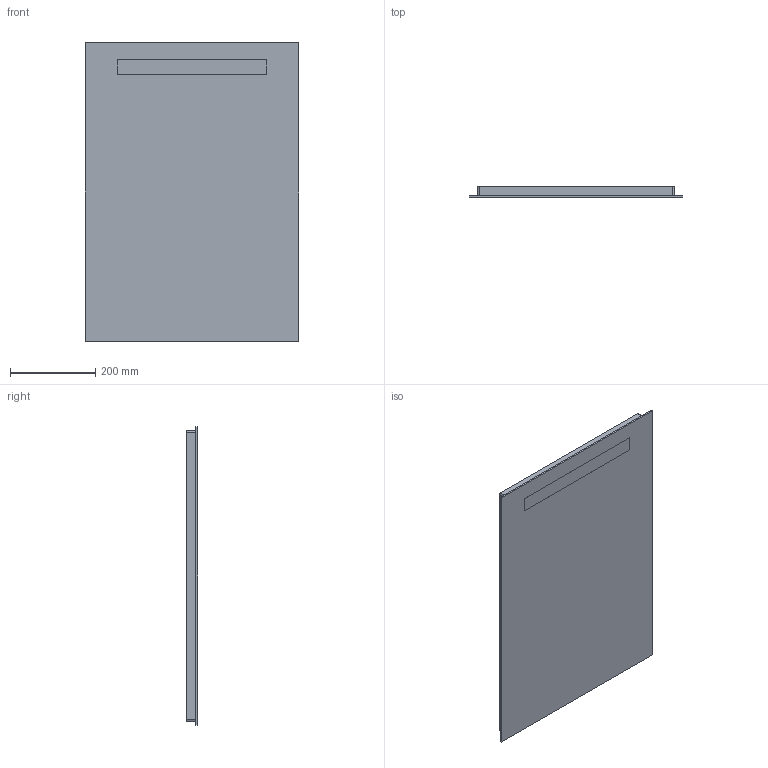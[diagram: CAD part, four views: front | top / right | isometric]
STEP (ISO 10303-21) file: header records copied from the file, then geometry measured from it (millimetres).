
FILE_DESCRIPTION(/* description */ (''),/* implementation_level */ '2;1');
FILE_NAME(/* name */ 'C:\Planerdaten\Export PLA\502.804.00.1\stp\502804.stp',/* time_stamp */ '2022-12-02T15:09:27+01:00',/* author */ ('JANAN'),/* organization */ (''),/* preprocessor_version */ 'ST-DEVELOPER v18.1',/* originating_system */ 'Autodesk Inventor 2021',/* authorisation */ '');
FILE_SCHEMA (('AUTOMOTIVE_DESIGN { 1 0 10303 214 3 1 1 }'));
Length unit declared in the file: millimetre
Products named in the file (1): tmpF950.tmp
Bounding box: 500 x 26 x 700 mm (x, y, z)
Volume: 8278194.4 mm3; surface area: 1386313.5 mm2
Topology: 2 solids, 2 shells, 29 faces, 68 edges, 48 vertices
Faces by surface type: plane 21, cylinder 8
Full cylindrical faces by diameter (mm): 8 x4
Entity records: 937 total; most frequent: DIRECTION 152, CARTESIAN_POINT 146, ORIENTED_EDGE 136, EDGE_CURVE 68, AXIS2_PLACEMENT_3D 54, VERTEX_POINT 48, LINE 44, VECTOR 44
